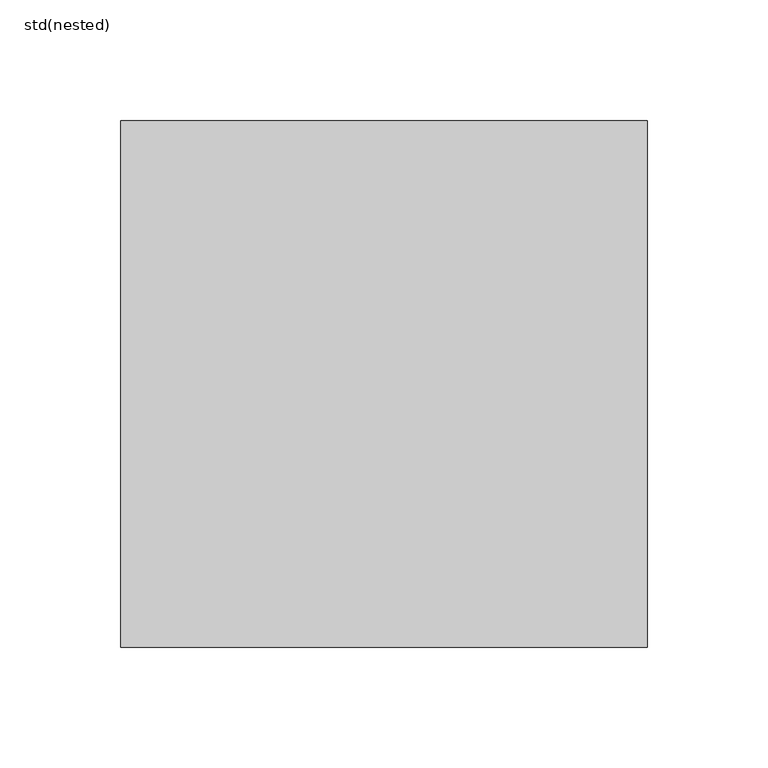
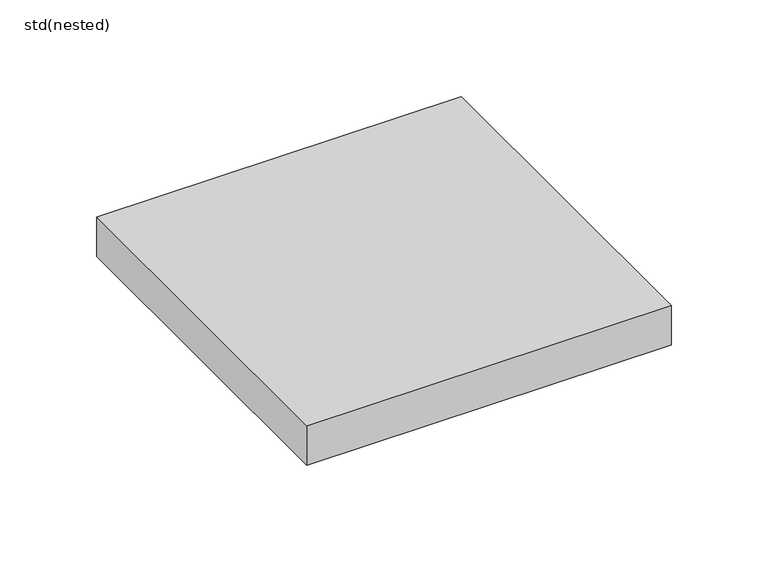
"""IFC4 building model written with IfcOpenShell, lengths in millimetres: sanitary terminal geometry, ZZZ_do not use_PF_SS_WPB_ Mesh Grating 218x218_ACO : std(nested)."""

from ifc_helpers import new_model, si_unit, origin, origin_with_axes, place, context, project, spatial, polyline, outline, extrude, source, transform, mapped, element, save


def std_nested_3ea158cc(model_context):
    return source(origin(), model_context, "Body", "SweptSolid", [
        extrude(outline(polyline([(109.0, 109.0), (109.0, -109.0), (-109.0, -109.0), (-109.0, 109.0), (109.0, 109.0)])), origin_with_axes(), (0.0, 0.0, 1.0), 25.0),
    ])


if __name__ == "__main__":
    model = new_model("IFC4")
    model_context = context("Model", 3, world=origin())
    ifc_project = project(units=[si_unit("LENGTHUNIT", "METRE", prefix="MILLI")], contexts=[model_context])
    site = spatial("IfcSite", under=ifc_project)
    building = spatial("IfcBuilding", under=site)
    placement = place(None, origin())
    std_nested_shape = std_nested_3ea158cc(model_context)
    element("IfcSanitaryTerminal", 1, ObjectType="ZZZ_do not use_PF_SS_WPB_ Mesh Grating 218x218_ACO : std(nested)", at=placement, inside=building, context=model_context, shape_type="MappedRepresentation", body=[
        mapped(std_nested_shape, transform((0.0, 0.0, 0.0), x_axis=(1.0, 0.0, 0.0), y_axis=(0.0, 1.0, 0.0), z_axis=(0.0, 0.0, 1.0))),
    ])
    save(model, "model.ifc")
